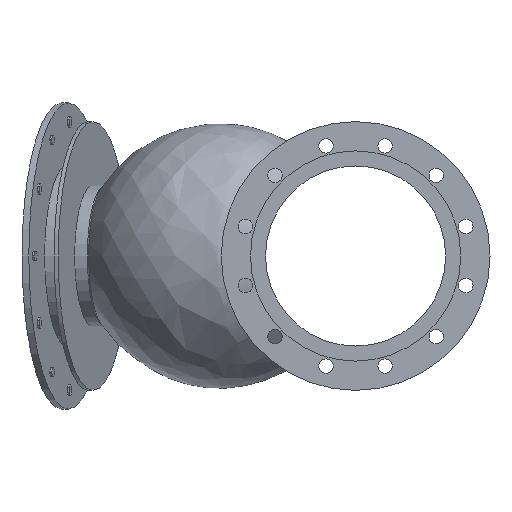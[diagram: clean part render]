
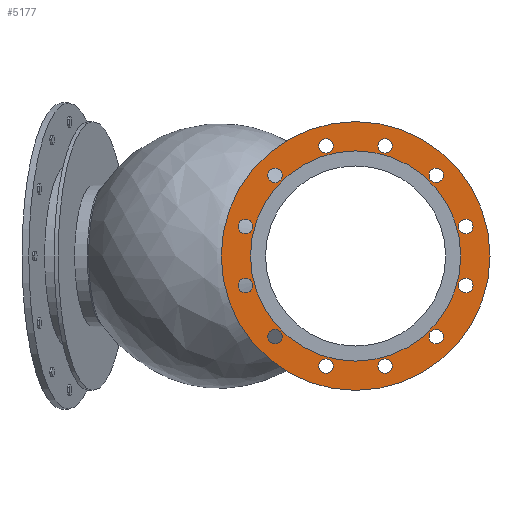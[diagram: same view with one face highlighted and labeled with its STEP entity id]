
A CAD part, left-side view. The second image highlights one B-rep face of the part: STEP entity #5177.
In plain terms, the highlighted planar face has unit normal (-1, 0, 0).
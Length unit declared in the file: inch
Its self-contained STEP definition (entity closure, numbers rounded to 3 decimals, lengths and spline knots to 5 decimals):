
#248=PLANE('',#5560);
#295=FACE_BOUND('',#950,.T.);
#296=FACE_BOUND('',#951,.T.);
#297=FACE_BOUND('',#952,.T.);
#298=FACE_BOUND('',#953,.T.);
#299=FACE_BOUND('',#954,.T.);
#300=FACE_BOUND('',#955,.T.);
#301=FACE_BOUND('',#956,.T.);
#302=FACE_BOUND('',#957,.T.);
#303=FACE_BOUND('',#958,.T.);
#304=FACE_BOUND('',#959,.T.);
#305=FACE_BOUND('',#960,.T.);
#306=FACE_BOUND('',#961,.T.);
#307=FACE_BOUND('',#962,.T.);
#646=FACE_OUTER_BOUND('',#949,.T.);
#949=EDGE_LOOP('',(#4531,#4532));
#950=EDGE_LOOP('',(#4533));
#951=EDGE_LOOP('',(#4534));
#952=EDGE_LOOP('',(#4535));
#953=EDGE_LOOP('',(#4536));
#954=EDGE_LOOP('',(#4537));
#955=EDGE_LOOP('',(#4538));
#956=EDGE_LOOP('',(#4539));
#957=EDGE_LOOP('',(#4540));
#958=EDGE_LOOP('',(#4541));
#959=EDGE_LOOP('',(#4542));
#960=EDGE_LOOP('',(#4543));
#961=EDGE_LOOP('',(#4544));
#962=EDGE_LOOP('',(#4545,#4546));
#2034=CIRCLE('',#5206,0.51181);
#2036=CIRCLE('',#5209,0.51181);
#2038=CIRCLE('',#5212,0.51181);
#2040=CIRCLE('',#5215,0.51181);
#2042=CIRCLE('',#5218,0.51181);
#2044=CIRCLE('',#5221,0.51181);
#2046=CIRCLE('',#5224,0.51181);
#2048=CIRCLE('',#5227,0.51181);
#2050=CIRCLE('',#5230,0.51181);
#2052=CIRCLE('',#5233,0.51181);
#2054=CIRCLE('',#5236,0.51181);
#2056=CIRCLE('',#5239,0.51181);
#2141=CIRCLE('',#5558,7.44095);
#2142=CIRCLE('',#5559,7.44095);
#2143=CIRCLE('',#5561,9.51);
#2144=CIRCLE('',#5562,9.51);
#2155=VERTEX_POINT('',#6885);
#2157=VERTEX_POINT('',#6891);
#2159=VERTEX_POINT('',#6897);
#2161=VERTEX_POINT('',#6903);
#2163=VERTEX_POINT('',#6909);
#2165=VERTEX_POINT('',#6915);
#2167=VERTEX_POINT('',#6921);
#2169=VERTEX_POINT('',#6927);
#2171=VERTEX_POINT('',#6933);
#2173=VERTEX_POINT('',#6939);
#2175=VERTEX_POINT('',#6945);
#2177=VERTEX_POINT('',#6951);
#2596=VERTEX_POINT('',#9204);
#2597=VERTEX_POINT('',#9205);
#2598=VERTEX_POINT('',#9210);
#2599=VERTEX_POINT('',#9211);
#2610=EDGE_CURVE('',#2155,#2155,#2034,.T.);
#2613=EDGE_CURVE('',#2157,#2157,#2036,.T.);
#2616=EDGE_CURVE('',#2159,#2159,#2038,.T.);
#2619=EDGE_CURVE('',#2161,#2161,#2040,.T.);
#2622=EDGE_CURVE('',#2163,#2163,#2042,.T.);
#2625=EDGE_CURVE('',#2165,#2165,#2044,.T.);
#2628=EDGE_CURVE('',#2167,#2167,#2046,.T.);
#2631=EDGE_CURVE('',#2169,#2169,#2048,.T.);
#2634=EDGE_CURVE('',#2171,#2171,#2050,.T.);
#2637=EDGE_CURVE('',#2173,#2173,#2052,.T.);
#2640=EDGE_CURVE('',#2175,#2175,#2054,.T.);
#2643=EDGE_CURVE('',#2177,#2177,#2056,.T.);
#3261=EDGE_CURVE('',#2596,#2597,#2141,.T.);
#3262=EDGE_CURVE('',#2597,#2596,#2142,.T.);
#3264=EDGE_CURVE('',#2598,#2599,#2143,.T.);
#3265=EDGE_CURVE('',#2599,#2598,#2144,.T.);
#4531=ORIENTED_EDGE('',*,*,#3264,.F.);
#4532=ORIENTED_EDGE('',*,*,#3265,.F.);
#4533=ORIENTED_EDGE('',*,*,#2610,.T.);
#4534=ORIENTED_EDGE('',*,*,#2613,.T.);
#4535=ORIENTED_EDGE('',*,*,#2616,.T.);
#4536=ORIENTED_EDGE('',*,*,#2619,.T.);
#4537=ORIENTED_EDGE('',*,*,#2622,.T.);
#4538=ORIENTED_EDGE('',*,*,#2625,.T.);
#4539=ORIENTED_EDGE('',*,*,#2628,.T.);
#4540=ORIENTED_EDGE('',*,*,#2631,.T.);
#4541=ORIENTED_EDGE('',*,*,#2634,.T.);
#4542=ORIENTED_EDGE('',*,*,#2637,.T.);
#4543=ORIENTED_EDGE('',*,*,#2640,.T.);
#4544=ORIENTED_EDGE('',*,*,#2643,.T.);
#4545=ORIENTED_EDGE('',*,*,#3261,.T.);
#4546=ORIENTED_EDGE('',*,*,#3262,.T.);
#5177=ADVANCED_FACE('',(#646,#295,#296,#297,#298,#299,#300,#301,#302,#303,
#304,#305,#306,#307),#248,.T.);
#5206=AXIS2_PLACEMENT_3D('',#6886,#5597,#5598);
#5209=AXIS2_PLACEMENT_3D('',#6892,#5604,#5605);
#5212=AXIS2_PLACEMENT_3D('',#6898,#5611,#5612);
#5215=AXIS2_PLACEMENT_3D('',#6904,#5618,#5619);
#5218=AXIS2_PLACEMENT_3D('',#6910,#5625,#5626);
#5221=AXIS2_PLACEMENT_3D('',#6916,#5632,#5633);
#5224=AXIS2_PLACEMENT_3D('',#6922,#5639,#5640);
#5227=AXIS2_PLACEMENT_3D('',#6928,#5646,#5647);
#5230=AXIS2_PLACEMENT_3D('',#6934,#5653,#5654);
#5233=AXIS2_PLACEMENT_3D('',#6940,#5660,#5661);
#5236=AXIS2_PLACEMENT_3D('',#6946,#5667,#5668);
#5239=AXIS2_PLACEMENT_3D('',#6952,#5674,#5675);
#5558=AXIS2_PLACEMENT_3D('',#9206,#6809,#6810);
#5559=AXIS2_PLACEMENT_3D('',#9207,#6811,#6812);
#5560=AXIS2_PLACEMENT_3D('',#9209,#6814,#6815);
#5561=AXIS2_PLACEMENT_3D('',#9212,#6816,#6817);
#5562=AXIS2_PLACEMENT_3D('',#9213,#6818,#6819);
#5597=DIRECTION('center_axis',(1.,0.,0.));
#5598=DIRECTION('ref_axis',(0.,0.5,0.866));
#5604=DIRECTION('center_axis',(1.,0.,0.));
#5605=DIRECTION('ref_axis',(0.,0.866,0.5));
#5611=DIRECTION('center_axis',(1.,0.,0.));
#5612=DIRECTION('ref_axis',(0.,1.,0.));
#5618=DIRECTION('center_axis',(1.,0.,0.));
#5619=DIRECTION('ref_axis',(0.,0.866,-0.5));
#5625=DIRECTION('center_axis',(1.,0.,0.));
#5626=DIRECTION('ref_axis',(0.,0.5,-0.866));
#5632=DIRECTION('center_axis',(1.,0.,0.));
#5633=DIRECTION('ref_axis',(0.,0.,-1.));
#5639=DIRECTION('center_axis',(1.,0.,0.));
#5640=DIRECTION('ref_axis',(0.,-0.5,-0.866));
#5646=DIRECTION('center_axis',(1.,0.,0.));
#5647=DIRECTION('ref_axis',(0.,-0.866,-0.5));
#5653=DIRECTION('center_axis',(1.,0.,0.));
#5654=DIRECTION('ref_axis',(0.,-1.,0.));
#5660=DIRECTION('center_axis',(1.,0.,0.));
#5661=DIRECTION('ref_axis',(0.,-0.866,0.5));
#5667=DIRECTION('center_axis',(1.,0.,0.));
#5668=DIRECTION('ref_axis',(0.,-0.5,0.866));
#5674=DIRECTION('center_axis',(1.,0.,0.));
#5675=DIRECTION('ref_axis',(0.,0.,1.));
#6809=DIRECTION('center_axis',(1.,0.,0.));
#6810=DIRECTION('ref_axis',(0.,0.,-1.));
#6811=DIRECTION('center_axis',(1.,0.,0.));
#6812=DIRECTION('ref_axis',(0.,0.,-1.));
#6814=DIRECTION('center_axis',(-1.,0.,0.));
#6815=DIRECTION('ref_axis',(0.,0.,1.));
#6816=DIRECTION('center_axis',(1.,0.,0.));
#6817=DIRECTION('ref_axis',(0.,0.,-1.));
#6818=DIRECTION('center_axis',(1.,0.,0.));
#6819=DIRECTION('ref_axis',(0.,0.,-1.));
#6885=CARTESIAN_POINT('',(-14.11252,5.45105,-6.15019));
#6886=CARTESIAN_POINT('Origin',(-14.11252,5.70695,-5.70695));
#6891=CARTESIAN_POINT('',(-14.11252,1.64565,-8.05175));
#6892=CARTESIAN_POINT('Origin',(-14.11252,2.08889,-7.79584));
#6897=CARTESIAN_POINT('',(-14.11252,-2.6007,-7.79584));
#6898=CARTESIAN_POINT('Origin',(-14.11252,-2.08889,-7.79584));
#6903=CARTESIAN_POINT('',(-14.11252,-6.15019,-5.45105));
#6904=CARTESIAN_POINT('Origin',(-14.11252,-5.70695,-5.70695));
#6909=CARTESIAN_POINT('',(-14.11252,-8.05175,-1.64565));
#6910=CARTESIAN_POINT('Origin',(-14.11252,-7.79584,-2.08889));
#6915=CARTESIAN_POINT('',(-14.11252,-7.79584,2.6007));
#6916=CARTESIAN_POINT('Origin',(-14.11252,-7.79584,2.08889));
#6921=CARTESIAN_POINT('',(-14.11252,-5.45105,6.15019));
#6922=CARTESIAN_POINT('Origin',(-14.11252,-5.70695,5.70695));
#6927=CARTESIAN_POINT('',(-14.11252,-1.64565,8.05175));
#6928=CARTESIAN_POINT('Origin',(-14.11252,-2.08889,7.79584));
#6933=CARTESIAN_POINT('',(-14.11252,2.6007,7.79584));
#6934=CARTESIAN_POINT('Origin',(-14.11252,2.08889,7.79584));
#6939=CARTESIAN_POINT('',(-14.11252,6.15019,5.45105));
#6940=CARTESIAN_POINT('Origin',(-14.11252,5.70695,5.70695));
#6945=CARTESIAN_POINT('',(-14.11252,8.05175,1.64565));
#6946=CARTESIAN_POINT('Origin',(-14.11252,7.79584,2.08889));
#6951=CARTESIAN_POINT('',(-14.11252,7.79584,-2.6007));
#6952=CARTESIAN_POINT('Origin',(-14.11252,7.79584,-2.08889));
#9204=CARTESIAN_POINT('',(-14.11252,7.44095,0.));
#9205=CARTESIAN_POINT('',(-14.11252,-7.44095,0.));
#9206=CARTESIAN_POINT('Origin',(-14.11252,0.,0.));
#9207=CARTESIAN_POINT('Origin',(-14.11252,0.,0.));
#9209=CARTESIAN_POINT('Origin',(-14.11252,9.51,0.));
#9210=CARTESIAN_POINT('',(-14.11252,9.51,0.));
#9211=CARTESIAN_POINT('',(-14.11252,-9.51,0.));
#9212=CARTESIAN_POINT('Origin',(-14.11252,0.,0.));
#9213=CARTESIAN_POINT('Origin',(-14.11252,0.,0.));
